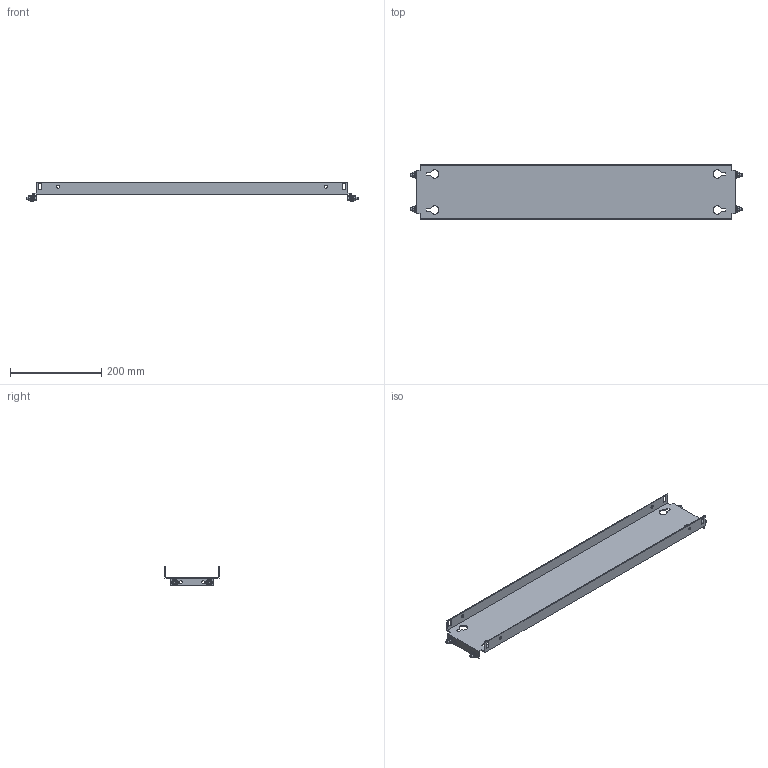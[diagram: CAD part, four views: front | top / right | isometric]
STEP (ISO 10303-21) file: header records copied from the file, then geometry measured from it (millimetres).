
FILE_DESCRIPTION(('Open CASCADE Model'),'2;1');
FILE_NAME('Open CASCADE Shape Model','2025-02-20T13:24:38',('Author'),( 'Open CASCADE'),'Open CASCADE STEP processor 7.8','Open CASCADE 7.8' ,'Unknown');
FILE_SCHEMA(('AUTOMOTIVE_DESIGN { 1 0 10303 214 1 1 1 1 }'));
Length unit declared in the file: millimetre
Products named in the file (4): Compound1; Solid1; Solid2; Solid3
Assembly tree (9 placements, depth 2):
  Compound1
    Solid1
    Solid2  x4
    Solid3  x4
Bounding box: 728 x 119 x 43 mm (x, y, z)
Volume: 240103.7 mm3; surface area: 244205.8 mm2
Topology: 9 solids, 9 shells, 306 faces, 746 edges, 462 vertices
Faces by surface type: plane 150, cone 68, bspline 48, cylinder 28, torus 12
Full cylindrical faces by diameter (mm): 5 x4, 6 x8, 7 x12
Entity records: 4844 total; most frequent: CARTESIAN_POINT 1361, ORIENTED_EDGE 742, DIRECTION 628, EDGE_CURVE 371, VERTEX_POINT 240, LINE 216, VECTOR 216, AXIS2_PLACEMENT_3D 206
